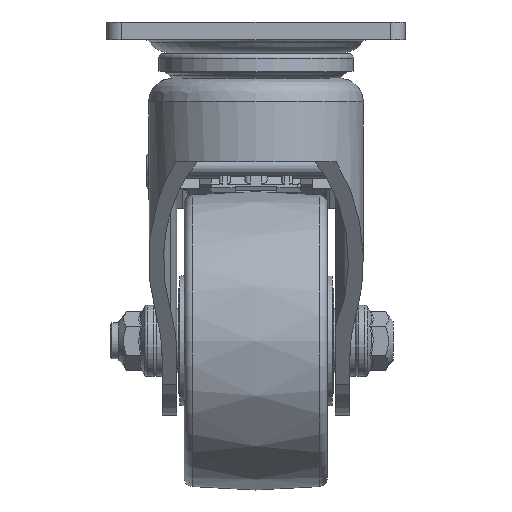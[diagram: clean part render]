
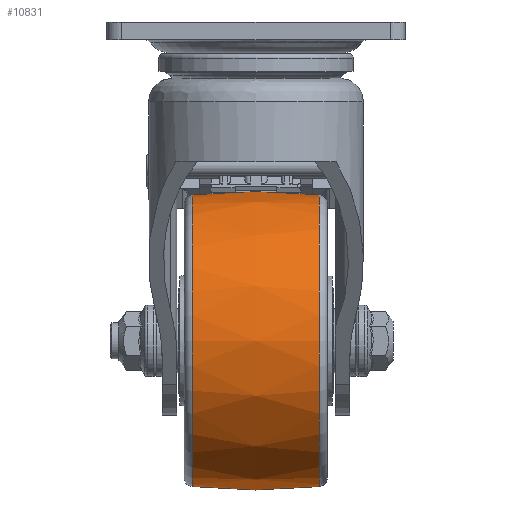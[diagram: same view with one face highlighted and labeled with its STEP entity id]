
A CAD part, left-side view. The second image highlights one B-rep face of the part: STEP entity #10831.
In plain terms, the highlighted free-form (B-spline) face has degree [2, 2] with [3, 9] control points.
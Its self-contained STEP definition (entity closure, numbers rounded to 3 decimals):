
#10759=CARTESIAN_POINT('',(50.,-21.251,-55.95));
#10760=VERTEX_POINT('',#10759);
#10761=CARTESIAN_POINT('',(50.,-21.251,-104.81));
#10762=DIRECTION('',(0.0,-1.0,0.0));
#10763=DIRECTION('',(0.0,0.0,1.0));
#10764=AXIS2_PLACEMENT_3D('',#10761,#10762,#10763);
#10765=CIRCLE('',#10764,48.86);
#10766=EDGE_CURVE('',#10760,#10760,#10765,.T.);
#10782=CARTESIAN_POINT('',(98.86,-21.251,-104.81));
#10783=CARTESIAN_POINT('',(101.146,0.068,-104.81));
#10784=CARTESIAN_POINT('',(98.86,21.388,-104.81));
#10785=CARTESIAN_POINT('',(98.86,-21.251,-55.95));
#10786=CARTESIAN_POINT('',(101.146,0.068,-53.664));
#10787=CARTESIAN_POINT('',(98.86,21.388,-55.95));
#10788=CARTESIAN_POINT('',(50.,-21.251,-55.95));
#10789=CARTESIAN_POINT('',(50.,0.068,-53.664));
#10790=CARTESIAN_POINT('',(50.,21.388,-55.95));
#10791=CARTESIAN_POINT('',(1.14,-21.251,-55.95));
#10792=CARTESIAN_POINT('',(-1.146,0.068,-53.664));
#10793=CARTESIAN_POINT('',(1.14,21.388,-55.95));
#10794=CARTESIAN_POINT('',(1.14,-21.251,-104.81));
#10795=CARTESIAN_POINT('',(-1.146,0.068,-104.81));
#10796=CARTESIAN_POINT('',(1.14,21.388,-104.81));
#10797=CARTESIAN_POINT('',(1.14,-21.251,-153.67));
#10798=CARTESIAN_POINT('',(-1.146,0.068,-155.956));
#10799=CARTESIAN_POINT('',(1.14,21.388,-153.67));
#10800=CARTESIAN_POINT('',(50.,-21.251,-153.67));
#10801=CARTESIAN_POINT('',(50.,0.068,-155.956));
#10802=CARTESIAN_POINT('',(50.,21.388,-153.67));
#10803=CARTESIAN_POINT('',(98.86,-21.251,-153.67));
#10804=CARTESIAN_POINT('',(101.146,0.068,-155.956));
#10805=CARTESIAN_POINT('',(98.86,21.388,-153.67));
#10806=CARTESIAN_POINT('',(98.86,-21.251,-104.81));
#10807=CARTESIAN_POINT('',(101.146,0.068,-104.81));
#10808=CARTESIAN_POINT('',(98.86,21.388,-104.81));
#10816=(BOUNDED_SURFACE()B_SPLINE_SURFACE(2,2,((#10782,#10785,#10788,#10791,#10794,#10797,#10800,#10803,#10806),(#10783,#10786,#10789,#10792,#10795,#10798,#10801,#10804,#10807),(#10784,#10787,#10790,#10793,#10796,#10799,#10802,#10805,#10808)),.UNSPECIFIED.,.F.,.T.,.U.)B_SPLINE_SURFACE_WITH_KNOTS((3,3),(3,2,2,2,3),(-0.107,0.107),(0.0,1.571,3.142,4.712,6.283),.UNSPECIFIED.)GEOMETRIC_REPRESENTATION_ITEM()RATIONAL_B_SPLINE_SURFACE(((1.0,0.707,1.0,0.707,1.0,0.707,1.0,0.707,1.0),(0.994,0.703,0.994,0.703,0.994,0.703,0.994,0.703,0.994),(1.0,0.707,1.0,0.707,1.0,0.707,1.0,0.707,1.0)))REPRESENTATION_ITEM('')SURFACE());
#10817=CARTESIAN_POINT('',(50.,21.388,-55.95));
#10818=VERTEX_POINT('',#10817);
#10819=CARTESIAN_POINT('',(50.,21.388,-104.81));
#10820=DIRECTION('',(0.0,-1.0,0.0));
#10821=DIRECTION('',(0.0,0.0,1.0));
#10822=AXIS2_PLACEMENT_3D('',#10819,#10820,#10821);
#10823=CIRCLE('',#10822,48.86);
#10824=EDGE_CURVE('',#10818,#10818,#10823,.T.);
#10825=ORIENTED_EDGE('',*,*,#10824,.T.);
#10826=EDGE_LOOP('',(#10825));
#10827=FACE_OUTER_BOUND('',#10826,.T.);
#10828=ORIENTED_EDGE('',*,*,#10766,.F.);
#10829=EDGE_LOOP('',(#10828));
#10830=FACE_BOUND('',#10829,.T.);
#10831=ADVANCED_FACE('',(#10827,#10830),#10816,.T.);
